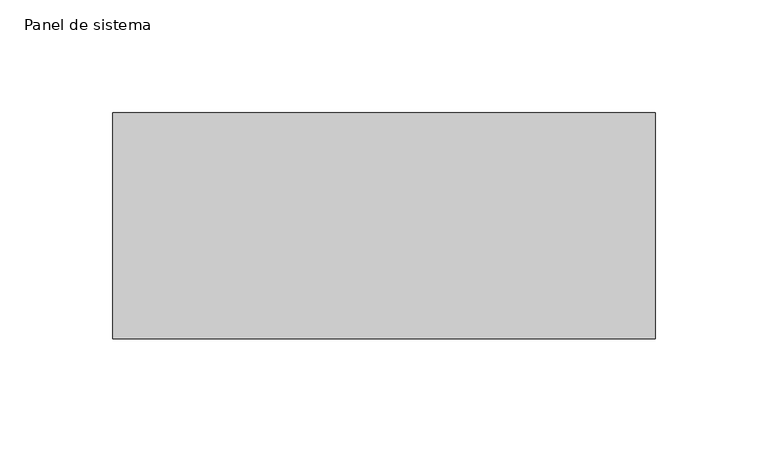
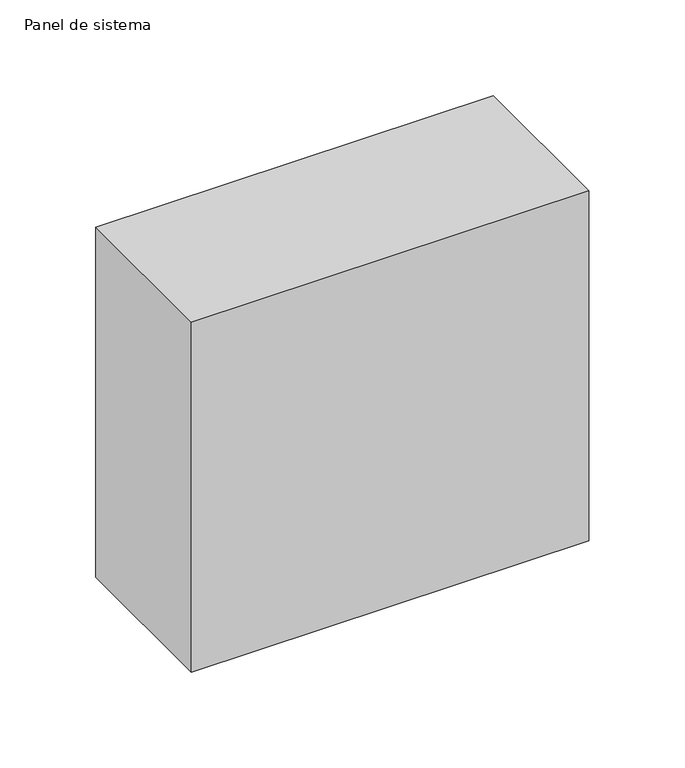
"""IFC4 building model written with IfcOpenShell, lengths in millimetres: plate geometry, Panel de sistema : PAVES."""

from ifc_helpers import new_model, si_unit, origin, origin_with_axes, place, context, project, spatial, polyline, outline, extrude, source, transform, mapped, element, save


def panel_de_sistema_02896438(model_context):
    return source(origin(), model_context, "Body", "SweptSolid", [
        extrude(outline(polyline([(120.0, -50.0), (-120.0, -50.0), (-120.0, 50.0), (120.0, 50.0), (120.0, -50.0)])), origin_with_axes(), (0.0, 0.0, 1.0), 223.3333333),
    ])


if __name__ == "__main__":
    model = new_model("IFC4")
    model_context = context("Model", 3, world=origin())
    ifc_project = project(units=[si_unit("LENGTHUNIT", "METRE", prefix="MILLI")], contexts=[model_context])
    site = spatial("IfcSite", under=ifc_project)
    building = spatial("IfcBuilding", under=site)
    placement = place(None, origin())
    panel_de_sistema_shape = panel_de_sistema_02896438(model_context)
    element("IfcPlate", 1, ObjectType="Panel de sistema : PAVES", at=placement, inside=building, context=model_context, shape_type="MappedRepresentation", body=[
        mapped(panel_de_sistema_shape, transform((0.0, 0.0, 0.0), x_axis=(1.0, 0.0, 0.0), y_axis=(0.0, 1.0, 0.0), z_axis=(0.0, 0.0, 1.0))),
    ])
    save(model, "model.ifc")
